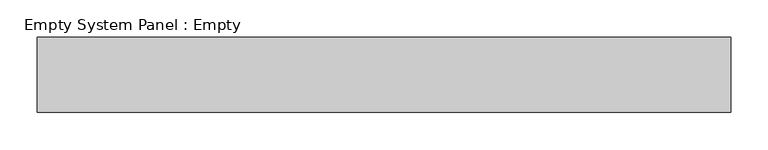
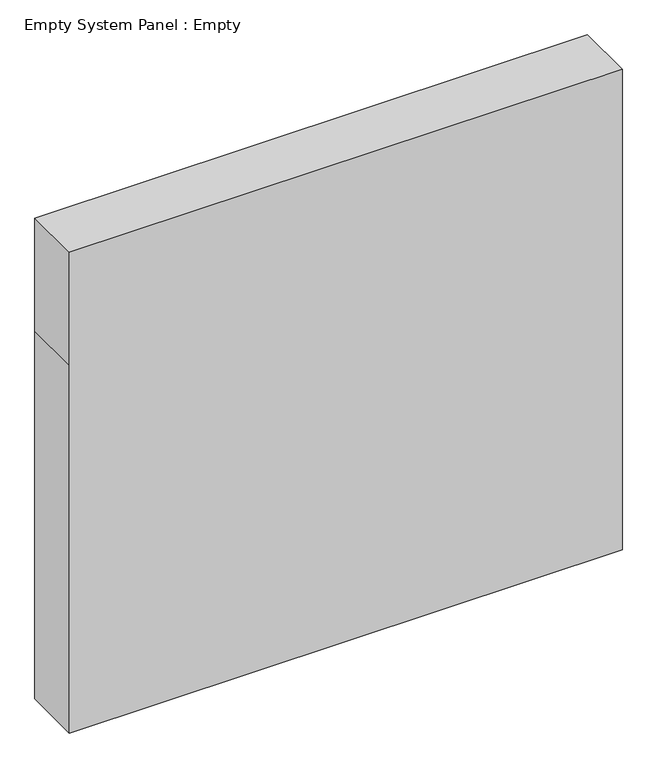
"""IFC4 building model written with IfcOpenShell, lengths in millimetres: plate geometry, Empty System Panel : Empty."""

from ifc_helpers import new_model, si_unit, frame, origin, place, context, project, spatial, polyline, outline, extrude, source, transform, mapped, element, save


def empty_system_panel_empty_12fe3e08(model_context):
    return source(origin(), model_context, "Body", "SweptSolid", [
        extrude(outline(polyline([(0.0, -462.5), (0.0, 462.5), (650.0, 462.5), (850.0, 462.5), (850.0, -462.5), (650.0, -462.5), (0.0, -462.5)])), frame((0.0, -50.0, 0.0), z_axis=(0.0, 1.0, 0.0), x_axis=(0.0, 0.0, 1.0)), (0.0, 0.0, 1.0), 100.0),
    ])


if __name__ == "__main__":
    model = new_model("IFC4")
    model_context = context("Model", 3, world=origin())
    ifc_project = project(units=[si_unit("LENGTHUNIT", "METRE", prefix="MILLI")], contexts=[model_context])
    site = spatial("IfcSite", under=ifc_project)
    building = spatial("IfcBuilding", under=site)
    placement = place(None, origin())
    empty_system_panel_empty_shape = empty_system_panel_empty_12fe3e08(model_context)
    element("IfcPlate", 1, ObjectType="Empty System Panel : Empty", at=placement, inside=building, context=model_context, shape_type="MappedRepresentation", body=[
        mapped(empty_system_panel_empty_shape, transform((0.0, 0.0, 0.0), x_axis=(1.0, 0.0, 0.0), y_axis=(0.0, 1.0, 0.0), z_axis=(0.0, 0.0, 1.0))),
    ])
    save(model, "model.ifc")
